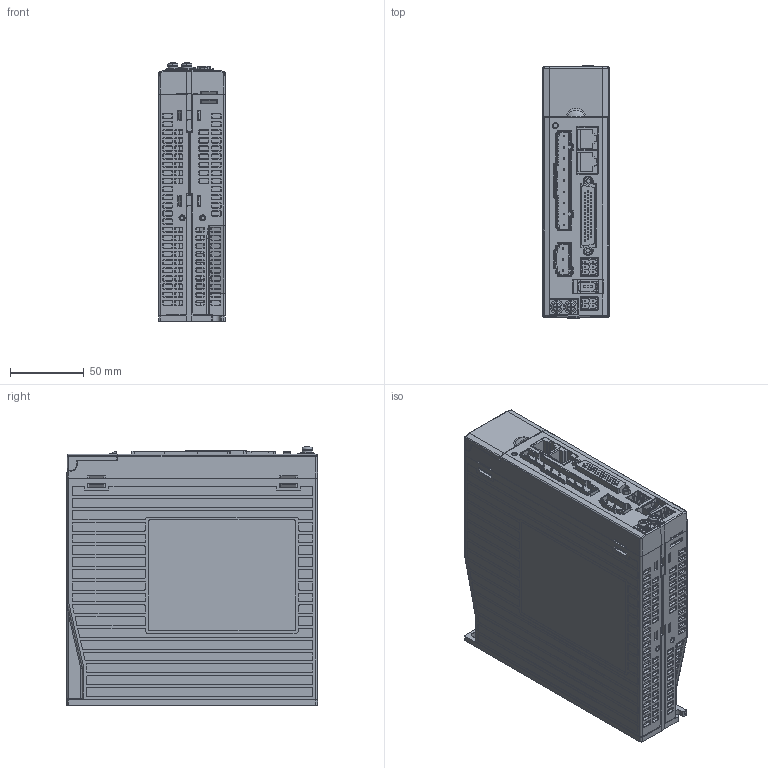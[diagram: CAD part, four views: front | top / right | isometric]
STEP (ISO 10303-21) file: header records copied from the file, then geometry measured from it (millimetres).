
FILE_DESCRIPTION((''),'2;1');
FILE_NAME('0-DA200A-N-6R0-S-2_SW0001','2024-03-18T15:24:52',('zhaihongyi'),(''),'CREO PARAMETRIC BY PTC INC, 2019080','CREO PARAMETRIC BY PTC INC, 2019080','');
FILE_SCHEMA(('AUTOMOTIVE_DESIGN { 1 0 10303 214 1 1 1 1 }'));
Products named in the file (1): 0-DA200A-N-6R0-S-2_SW0001
Bounding box: 45.01 x 170.57 x 175.12 mm (x, y, z)
Volume: 1052723 mm3; surface area: 212800.2 mm2
Topology: 3 solids, 3 shells, 6518 faces, 17522 edges, 11015 vertices
Faces by surface type: plane 3312, cylinder 2336, bspline 614, sphere 93, torus 82, cone 71, extrusion 10
Entity records: 327830 total; most frequent: CARTESIAN_POINT 116600, ORIENTED_EDGE 34940, DIRECTION 30169, PRESENTATION_STYLE_ASSIGNMENT 17474, STYLED_ITEM 17474, CURVE_STYLE 17471, EDGE_CURVE 17470, VECTOR 11674
